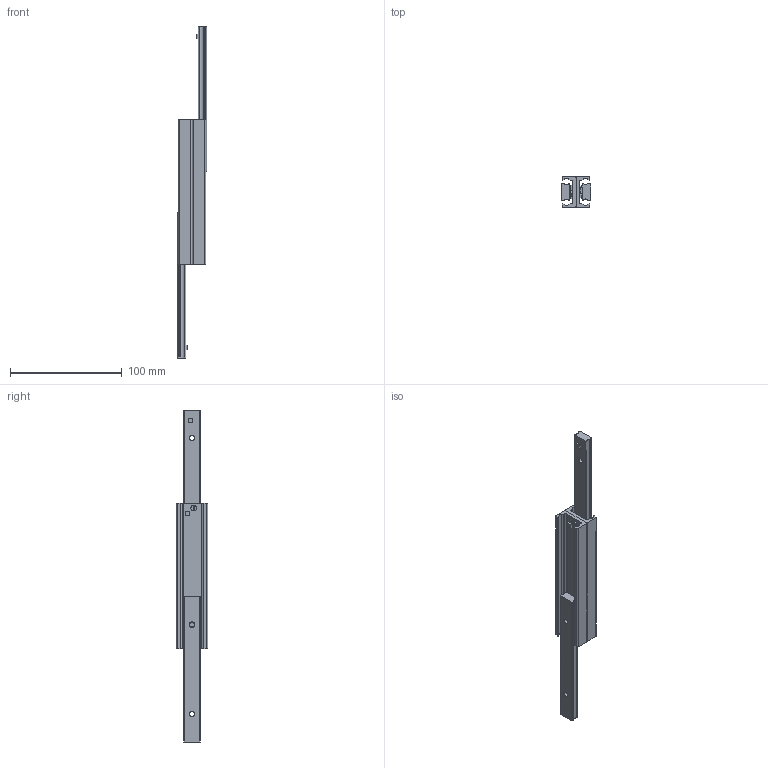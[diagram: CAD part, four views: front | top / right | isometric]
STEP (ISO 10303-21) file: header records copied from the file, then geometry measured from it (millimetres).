
FILE_DESCRIPTION( ( 'STEP AP214' ), '1' );
FILE_NAME( 'p:/temp/worker_94/temp/exporttempdir_5220_749_TSvW2/format_1/DEF28-130167.stp', '2020-03-20T19:41:44', ( 'License CC BY-ND 4.0' ), ( 'CADENAS' ), ' ', 'PARTsolutions', ' ' );
FILE_SCHEMA( ( 'AUTOMOTIVE_DESIGN { 1 0 10303 214 1 1 1 1 }' ) );
Length unit declared in the file: millimetre
Products named in the file (4): DEF28-130167; _282113016712-gf; _28211301671-ei; _282113016711-gf
Assembly tree (4 placements, depth 2):
  DEF28-130167
    _282113016712-gf
    _28211301671-ei  x2
    _282113016711-gf
Bounding box: 26 x 28 x 297 mm (x, y, z)
Volume: 63226.9 mm3; surface area: 38721.1 mm2
Topology: 4 solids, 4 shells, 162 faces, 416 edges, 274 vertices
Faces by surface type: plane 102, cylinder 48, cone 12
Full cylindrical faces by diameter (mm): 4.134 x4, 5 x2
Entity records: 4408 total; most frequent: DIRECTION 600, CARTESIAN_POINT 590, ORIENTED_EDGE 556, EDGE_CURVE 278, AXIS2_PLACEMENT_3D 202, LINE 196, VECTOR 196, VERTEX_POINT 192
